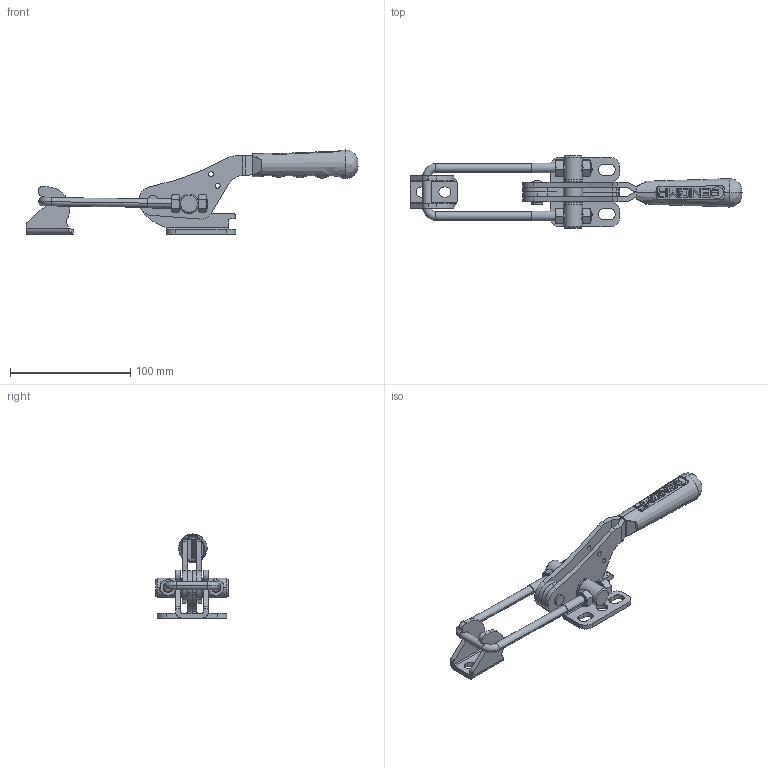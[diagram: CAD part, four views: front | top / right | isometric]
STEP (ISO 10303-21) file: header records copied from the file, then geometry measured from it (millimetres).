
FILE_DESCRIPTION (( 'STEP AP203' ), '1' );
FILE_NAME ('13008_Y.STEP', '2022-12-02T10:18:17', ( '' ), ( '' ), 'SwSTEP 2.0', 'SolidWorks 2023', '' );
FILE_SCHEMA (( 'CONFIG_CONTROL_DESIGN' ));
Length unit declared in the file: millimetre
Products named in the file (11): Mirror13008_H.KOLU_01.12.2022_Varsay_X2_0131_X0_lan; Mirror2022_13108_13110_Y_G_X2_00d6_X0_VDE; 13008_Y; M8x50_U_KANCA_Varsayılan; M8 Somun; 2022_13108_13110_Y_G_X2_00d6_X0_VDE; 13108_OTOMAT_Varsay_X2_0131_X0_lan; 13008_H.KOLU_01.12.2022_Varsay_X2_0131_X0_lan; C90_Yeni_Tutamak_Varsay_X2_0131_X0_lan; M8_M10_KK; _X2_00d8_X0_6x18_P(PER_X2_00c70130_X0_N)_Varsay_X2_0131_X0_lan
Assembly tree (13 placements, depth 2):
  13008_Y
    2022_13108_13110_Y_G_X2_00d6_X0_VDE
    13108_OTOMAT_Varsay_X2_0131_X0_lan
    Mirror2022_13108_13110_Y_G_X2_00d6_X0_VDE
    M8_M10_KK
    _X2_00d8_X0_6x18_P(PER_X2_00c70130_X0_N)_Varsay_X2_0131_X0_lan
    M8 Somun  x4
    C90_Yeni_Tutamak_Varsay_X2_0131_X0_lan
    13008_H.KOLU_01.12.2022_Varsay_X2_0131_X0_lan
    Mirror13008_H.KOLU_01.12.2022_Varsay_X2_0131_X0_lan
    M8x50_U_KANCA_Varsayılan
Bounding box: 276.54 x 60 x 70.03 mm (x, y, z)
Volume: 107666.2 mm3; surface area: 61975.5 mm2
Topology: 13 solids, 13 shells, 601 faces, 1609 edges, 1047 vertices
Faces by surface type: plane 278, cylinder 215, cone 54, bspline 50, torus 4
Entity records: 30811 total; most frequent: CARTESIAN_POINT 16829, ORIENTED_EDGE 2716, DIRECTION 2609, EDGE_CURVE 1358, AXIS2_PLACEMENT_3D 906, VERTEX_POINT 882, VECTOR 797, LINE 797
